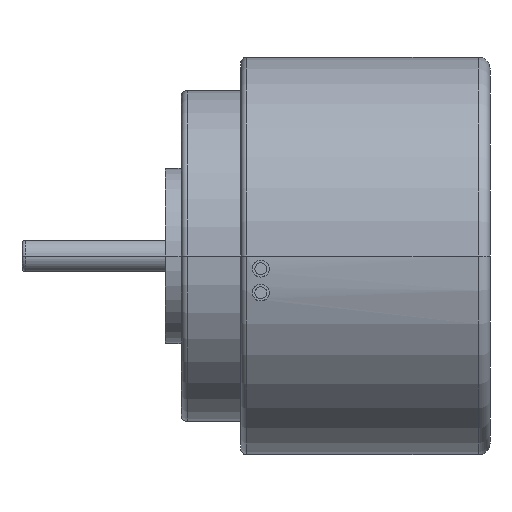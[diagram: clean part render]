
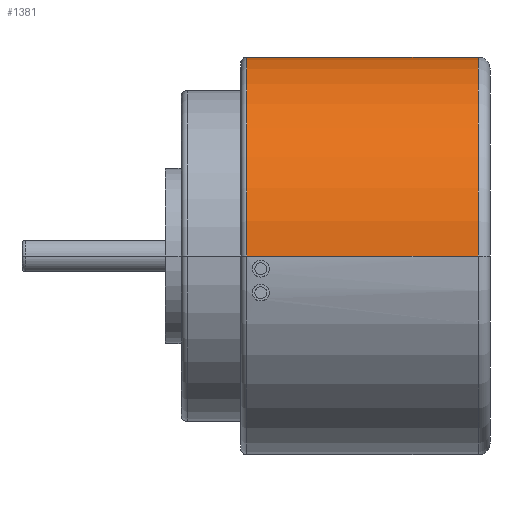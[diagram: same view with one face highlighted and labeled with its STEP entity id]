
A CAD part, front view. The second image highlights one B-rep face of the part: STEP entity #1381.
In plain terms, the highlighted cylindrical face has radius 25 mm (diameter 50 mm), a partial arc.
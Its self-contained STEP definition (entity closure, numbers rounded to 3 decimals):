
#439=CARTESIAN_POINT('',(0.75,0.,0.));
#440=DIRECTION('',(-1.,0.,0.));
#441=DIRECTION('',(0.,-1.,0.));
#442=AXIS2_PLACEMENT_3D('',#439,#440,#441);
#444=CARTESIAN_POINT('',(29.8,0.,0.));
#445=DIRECTION('',(-1.,0.,0.));
#446=DIRECTION('',(0.,-1.,0.));
#447=AXIS2_PLACEMENT_3D('',#444,#445,#446);
#454=DIRECTION('',(-1.,0.,0.));
#455=VECTOR('',#454,29.05);
#456=CARTESIAN_POINT('',(29.8,-25.,0.));
#457=LINE('',#456,#455);
#463=DIRECTION('',(-1.,0.,0.));
#464=VECTOR('',#463,29.05);
#465=CARTESIAN_POINT('',(29.8,25.,0.));
#466=LINE('',#465,#464);
#669=CARTESIAN_POINT('',(0.75,25.,0.));
#670=CARTESIAN_POINT('',(0.75,-25.,0.));
#671=VERTEX_POINT('',#669);
#672=VERTEX_POINT('',#670);
#673=CARTESIAN_POINT('',(29.8,25.,0.));
#674=CARTESIAN_POINT('',(29.8,-25.,0.));
#675=VERTEX_POINT('',#673);
#676=VERTEX_POINT('',#674);
#1367=CARTESIAN_POINT('',(-30.44,0.,0.));
#1368=DIRECTION('',(1.,0.,0.));
#1369=DIRECTION('',(0.,-1.,0.));
#1370=AXIS2_PLACEMENT_3D('',#1367,#1368,#1369);
#1371=CYLINDRICAL_SURFACE('',#1370,25.);
#1372=ORIENTED_EDGE('',*,*,#1361,.T.);
#1374=ORIENTED_EDGE('',*,*,#1373,.F.);
#1376=ORIENTED_EDGE('',*,*,#1375,.F.);
#1378=ORIENTED_EDGE('',*,*,#1377,.T.);
#1379=EDGE_LOOP('',(#1372,#1374,#1376,#1378));
#1380=FACE_OUTER_BOUND('',#1379,.F.);
#1381=ADVANCED_FACE('',(#1380),#1371,.T.);
#443=CIRCLE('',#442,25.);
#448=CIRCLE('',#447,25.);
#1361=EDGE_CURVE('',#672,#671,#443,.T.);
#1373=EDGE_CURVE('',#675,#671,#466,.T.);
#1375=EDGE_CURVE('',#676,#675,#448,.T.);
#1377=EDGE_CURVE('',#676,#672,#457,.T.);
